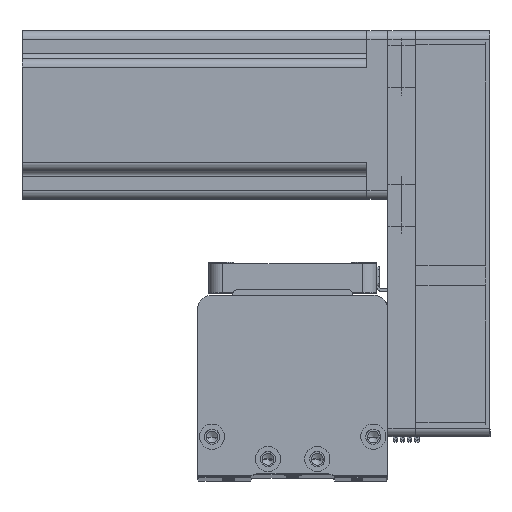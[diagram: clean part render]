
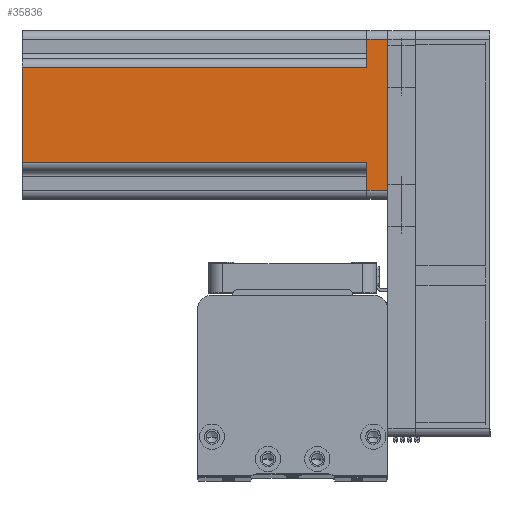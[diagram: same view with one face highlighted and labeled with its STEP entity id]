
A CAD part, top view. The second image highlights one B-rep face of the part: STEP entity #35836.
In plain terms, the highlighted planar face has unit normal (0, 0, 1) as drawn and (0, -1, 0) by its records, which use the part's own axes.
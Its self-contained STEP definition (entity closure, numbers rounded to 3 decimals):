
#83 = LINE ( 'NONE', #26045, #37578 ) ;
#273 = FACE_OUTER_BOUND ( 'NONE', #41296, .T. ) ;
#614 = DIRECTION ( 'NONE',  ( -1., 0., 0. ) ) ;
#1158 = CARTESIAN_POINT ( 'NONE',  ( 30., -30., 0. ) ) ;
#2862 = DIRECTION ( 'NONE',  ( 0., 0., -1. ) ) ;
#2865 = CARTESIAN_POINT ( 'NONE',  ( -27., -30., 7.5 ) ) ;
#3153 = EDGE_CURVE ( 'NONE', #16051, #5244, #27788, .T. ) ;
#4263 = CARTESIAN_POINT ( 'NONE',  ( -17., -30., 130.7 ) ) ;
#5244 = VERTEX_POINT ( 'NONE', #40149 ) ;
#6053 = ORIENTED_EDGE ( 'NONE', *, *, #27872, .T. ) ;
#6706 = LINE ( 'NONE', #27476, #7818 ) ;
#7596 = VECTOR ( 'NONE', #37521, 1000. ) ;
#7818 = VECTOR ( 'NONE', #31099, 1000. ) ;
#8973 = CARTESIAN_POINT ( 'NONE',  ( 17., -30., 7.5 ) ) ;
#10170 = CARTESIAN_POINT ( 'NONE',  ( 17., -30., 130.7 ) ) ;
#10231 = LINE ( 'NONE', #24675, #19953 ) ;
#11340 = VERTEX_POINT ( 'NONE', #12265 ) ;
#11370 = LINE ( 'NONE', #10170, #18791 ) ;
#11379 = DIRECTION ( 'NONE',  ( 1., 0., 0. ) ) ;
#11536 = CARTESIAN_POINT ( 'NONE',  ( 30., -30., 130.7 ) ) ;
#12089 = EDGE_CURVE ( 'NONE', #46017, #20861, #33045, .T. ) ;
#12265 = CARTESIAN_POINT ( 'NONE',  ( 27., -30., 7.5 ) ) ;
#12426 = EDGE_CURVE ( 'NONE', #11340, #41938, #83, .T. ) ;
#12504 = ORIENTED_EDGE ( 'NONE', *, *, #37486, .T. ) ;
#12682 = DIRECTION ( 'NONE',  ( 0., 0., -1. ) ) ;
#13640 = PLANE ( 'NONE',  #33492 ) ;
#13735 = VECTOR ( 'NONE', #12682, 1000. ) ;
#13834 = DIRECTION ( 'NONE',  ( 0., 0., 1. ) ) ;
#15208 = DIRECTION ( 'NONE',  ( 1., 0., 0. ) ) ;
#15633 = ORIENTED_EDGE ( 'NONE', *, *, #12089, .T. ) ;
#16051 = VERTEX_POINT ( 'NONE', #4263 ) ;
#16449 = CARTESIAN_POINT ( 'NONE',  ( -27., -30., 0. ) ) ;
#16776 = VERTEX_POINT ( 'NONE', #20610 ) ;
#17304 = LINE ( 'NONE', #1158, #7596 ) ;
#17481 = DIRECTION ( 'NONE',  ( 0., 1., 0. ) ) ;
#18571 = ORIENTED_EDGE ( 'NONE', *, *, #12426, .T. ) ;
#18791 = VECTOR ( 'NONE', #13834, 1000. ) ;
#19953 = VECTOR ( 'NONE', #2862, 1000. ) ;
#20459 = VECTOR ( 'NONE', #15208, 1000. ) ;
#20610 = CARTESIAN_POINT ( 'NONE',  ( 27., -30., 0. ) ) ;
#20861 = VERTEX_POINT ( 'NONE', #16449 ) ;
#23032 = ORIENTED_EDGE ( 'NONE', *, *, #29973, .F. ) ;
#24675 = CARTESIAN_POINT ( 'NONE',  ( -17., -30., 130.7 ) ) ;
#25238 = CARTESIAN_POINT ( 'NONE',  ( -17., -30., 7.5 ) ) ;
#26045 = CARTESIAN_POINT ( 'NONE',  ( 20., -30., 7.5 ) ) ;
#27159 = CARTESIAN_POINT ( 'NONE',  ( -27., -30., 130.7 ) ) ;
#27476 = CARTESIAN_POINT ( 'NONE',  ( 27., -30., 130.7 ) ) ;
#27788 = LINE ( 'NONE', #11536, #20459 ) ;
#27872 = EDGE_CURVE ( 'NONE', #16776, #11340, #6706, .T. ) ;
#28152 = VECTOR ( 'NONE', #11379, 1000. ) ;
#29737 = ORIENTED_EDGE ( 'NONE', *, *, #37475, .T. ) ;
#29973 = EDGE_CURVE ( 'NONE', #46017, #31447, #37817, .T. ) ;
#31099 = DIRECTION ( 'NONE',  ( 0., 0., 1. ) ) ;
#31447 = VERTEX_POINT ( 'NONE', #25238 ) ;
#33045 = LINE ( 'NONE', #27159, #13735 ) ;
#33492 = AXIS2_PLACEMENT_3D ( 'NONE', #39181, #17481, #42844 ) ;
#34024 = ORIENTED_EDGE ( 'NONE', *, *, #3153, .F. ) ;
#35083 = EDGE_CURVE ( 'NONE', #20861, #16776, #17304, .T. ) ;
#35836 = ADVANCED_FACE ( 'NONE', ( #273 ), #13640, .F. ) ;
#36180 = ORIENTED_EDGE ( 'NONE', *, *, #35083, .T. ) ;
#37475 = EDGE_CURVE ( 'NONE', #16051, #31447, #10231, .T. ) ;
#37486 = EDGE_CURVE ( 'NONE', #41938, #5244, #11370, .T. ) ;
#37521 = DIRECTION ( 'NONE',  ( 1., 0., 0. ) ) ;
#37578 = VECTOR ( 'NONE', #614, 1000. ) ;
#37817 = LINE ( 'NONE', #40262, #28152 ) ;
#39181 = CARTESIAN_POINT ( 'NONE',  ( 30., -30., 130.7 ) ) ;
#40149 = CARTESIAN_POINT ( 'NONE',  ( 17., -30., 130.7 ) ) ;
#40262 = CARTESIAN_POINT ( 'NONE',  ( -20., -30., 7.5 ) ) ;
#41296 = EDGE_LOOP ( 'NONE', ( #34024, #29737, #23032, #15633, #36180, #6053, #18571, #12504 ) ) ;
#41938 = VERTEX_POINT ( 'NONE', #8973 ) ;
#42844 = DIRECTION ( 'NONE',  ( -1., 0., 0. ) ) ;
#46017 = VERTEX_POINT ( 'NONE', #2865 ) ;
